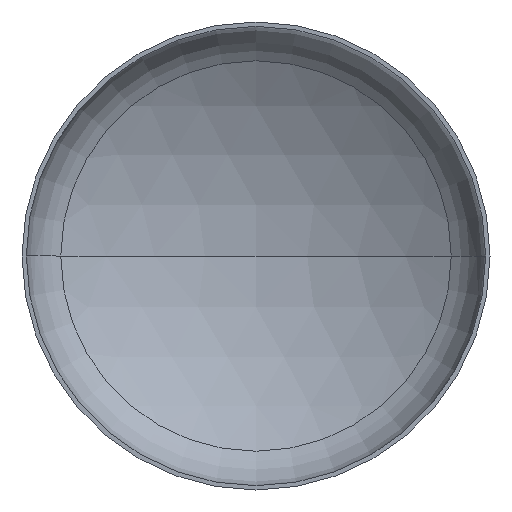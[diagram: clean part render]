
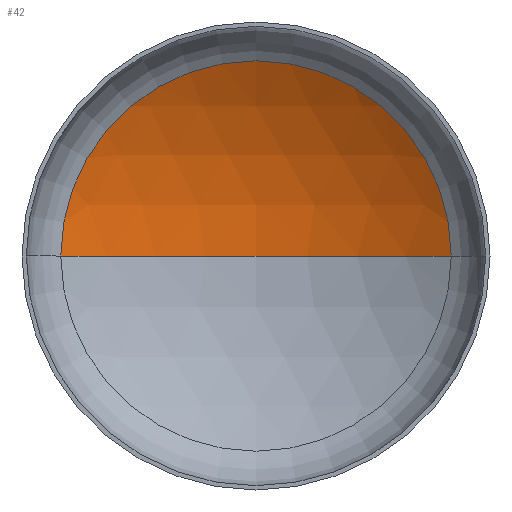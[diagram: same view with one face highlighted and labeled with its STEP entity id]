
A CAD part, front view. The second image highlights one B-rep face of the part: STEP entity #42.
In plain terms, the highlighted spherical face has radius 4000 mm.
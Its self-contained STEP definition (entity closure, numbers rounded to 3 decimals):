
#20 = EDGE_LOOP ( 'NONE', ( #106, #59, #46 ) ) ;
#21 = VERTEX_POINT ( 'NONE', #253 ) ;
#42 = ADVANCED_FACE ( 'NONE', ( #235 ), #292, .F. ) ;
#46 = ORIENTED_EDGE ( 'NONE', *, *, #212, .T. ) ;
#59 = ORIENTED_EDGE ( 'NONE', *, *, #216, .T. ) ;
#67 = CIRCLE ( 'NONE', #122, 4000. ) ;
#68 = VERTEX_POINT ( 'NONE', #236 ) ;
#76 = VERTEX_POINT ( 'NONE', #249 ) ;
#106 = ORIENTED_EDGE ( 'NONE', *, *, #217, .F. ) ;
#122 = AXIS2_PLACEMENT_3D ( 'NONE', #269, #268, #248 ) ;
#126 = AXIS2_PLACEMENT_3D ( 'NONE', #225, #262, #261 ) ;
#128 = AXIS2_PLACEMENT_3D ( 'NONE', #186, #203, #210 ) ;
#170 = AXIS2_PLACEMENT_3D ( 'NONE', #366, #283, #252 ) ;
#186 = CARTESIAN_POINT ( 'NONE',  ( 0., 797.068, 0. ) ) ;
#203 = DIRECTION ( 'NONE',  ( 0., -1., 0. ) ) ;
#210 = DIRECTION ( 'NONE',  ( 1., 0., 0. ) ) ;
#212 = EDGE_CURVE ( 'NONE', #21, #76, #321, .T. ) ;
#216 = EDGE_CURVE ( 'NONE', #68, #21, #380, .T. ) ;
#217 = EDGE_CURVE ( 'NONE', #68, #76, #67, .T. ) ;
#225 = CARTESIAN_POINT ( 'NONE',  ( 0., -2616.274, 0. ) ) ;
#235 = FACE_OUTER_BOUND ( 'NONE', #20, .T. ) ;
#236 = CARTESIAN_POINT ( 'NONE',  ( 0., 1383.726, 0. ) ) ;
#248 = DIRECTION ( 'NONE',  ( 1., 0., 0. ) ) ;
#249 = CARTESIAN_POINT ( 'NONE',  ( -2085.449, 797.068, 0. ) ) ;
#252 = DIRECTION ( 'NONE',  ( -1., 0., 0. ) ) ;
#253 = CARTESIAN_POINT ( 'NONE',  ( 2085.449, 797.068, 0. ) ) ;
#261 = DIRECTION ( 'NONE',  ( -1., 0., 0. ) ) ;
#262 = DIRECTION ( 'NONE',  ( 0., 0., -1. ) ) ;
#268 = DIRECTION ( 'NONE',  ( 0., 0., 1. ) ) ;
#269 = CARTESIAN_POINT ( 'NONE',  ( 0., -2616.274, 0. ) ) ;
#283 = DIRECTION ( 'NONE',  ( 0., 0., -1. ) ) ;
#292 = SPHERICAL_SURFACE ( 'NONE', #170, 4000. ) ;
#321 = CIRCLE ( 'NONE', #128, 2085.449 ) ;
#366 = CARTESIAN_POINT ( 'NONE',  ( 0., -2616.274, 0. ) ) ;
#380 = CIRCLE ( 'NONE', #126, 4000. ) ;
